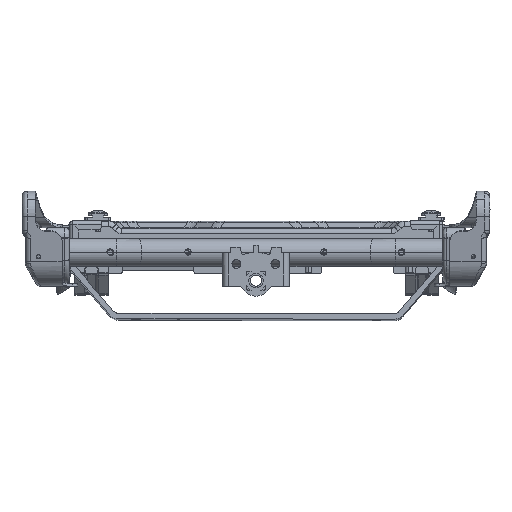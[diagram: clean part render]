
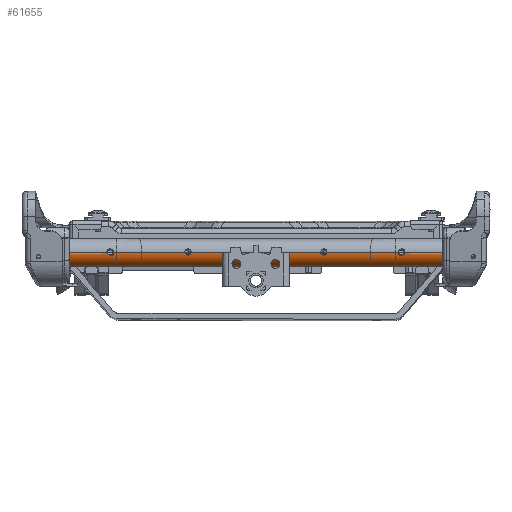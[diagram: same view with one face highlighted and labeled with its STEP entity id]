
A CAD part, left-side view. The second image highlights one B-rep face of the part: STEP entity #61655.
In plain terms, the highlighted cylindrical face has radius 12.5 mm (diameter 25 mm), a partial arc.
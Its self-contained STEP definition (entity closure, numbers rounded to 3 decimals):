
#61487=AXIS2_PLACEMENT_3D('Circle Axis2P3D',#61485,#61486,$) ;
#61516=AXIS2_PLACEMENT_3D('Cylinder Axis2P3D',#61513,#61514,#61515) ;
#61600=AXIS2_PLACEMENT_3D('Circle Axis2P3D',#61598,#61599,$) ;
#61480=CARTESIAN_POINT('Vertex',(39.904,-897.816,278.444)) ;
#61482=CARTESIAN_POINT('Vertex',(14.909,-897.788,278.934)) ;
#61485=CARTESIAN_POINT('Axis2P3D Location',(27.407,-897.802,278.689)) ;
#61513=CARTESIAN_POINT('Axis2P3D Location',(27.601,-724.302,278.676)) ;
#61519=CARTESIAN_POINT('Control Point',(40.027,-788.024,278.436)) ;
#61520=CARTESIAN_POINT('Control Point',(40.034,-787.967,278.755)) ;
#61521=CARTESIAN_POINT('Control Point',(40.03,-787.864,279.067)) ;
#61522=CARTESIAN_POINT('Control Point',(40.016,-787.714,279.362)) ;
#61523=CARTESIAN_POINT('Control Point',(39.97,-787.274,279.985)) ;
#61524=CARTESIAN_POINT('Control Point',(39.911,-786.643,280.433)) ;
#61525=CARTESIAN_POINT('Control Point',(39.881,-786.237,280.615)) ;
#61526=CARTESIAN_POINT('Control Point',(39.857,-785.541,280.768)) ;
#61527=CARTESIAN_POINT('Control Point',(39.87,-784.84,280.697)) ;
#61528=CARTESIAN_POINT('Control Point',(39.88,-784.581,280.638)) ;
#61529=CARTESIAN_POINT('Control Point',(39.922,-783.837,280.371)) ;
#61530=CARTESIAN_POINT('Control Point',(39.987,-783.224,279.857)) ;
#61531=CARTESIAN_POINT('Control Point',(40.027,-782.905,279.427)) ;
#61532=CARTESIAN_POINT('Control Point',(40.043,-782.698,278.941)) ;
#61533=CARTESIAN_POINT('Control Point',(40.033,-782.608,278.435)) ;
#61534=CARTESIAN_POINT('Vertex',(40.027,-788.024,278.436)) ;
#61536=CARTESIAN_POINT('Vertex',(40.033,-782.608,278.435)) ;
#61539=CARTESIAN_POINT('Line Origine',(40.099,-724.316,278.431)) ;
#61543=CARTESIAN_POINT('Vertex',(40.164,-666.024,278.426)) ;
#61547=CARTESIAN_POINT('Control Point',(40.164,-666.024,278.426)) ;
#61548=CARTESIAN_POINT('Control Point',(40.17,-665.967,278.746)) ;
#61549=CARTESIAN_POINT('Control Point',(40.166,-665.864,279.058)) ;
#61550=CARTESIAN_POINT('Control Point',(40.153,-665.714,279.352)) ;
#61551=CARTESIAN_POINT('Control Point',(40.107,-665.274,279.975)) ;
#61552=CARTESIAN_POINT('Control Point',(40.048,-664.643,280.423)) ;
#61553=CARTESIAN_POINT('Control Point',(40.018,-664.237,280.605)) ;
#61554=CARTESIAN_POINT('Control Point',(39.994,-663.541,280.758)) ;
#61555=CARTESIAN_POINT('Control Point',(40.006,-662.84,280.687)) ;
#61556=CARTESIAN_POINT('Control Point',(40.016,-662.581,280.628)) ;
#61557=CARTESIAN_POINT('Control Point',(40.059,-661.837,280.361)) ;
#61558=CARTESIAN_POINT('Control Point',(40.124,-661.224,279.847)) ;
#61559=CARTESIAN_POINT('Control Point',(40.163,-660.905,279.418)) ;
#61560=CARTESIAN_POINT('Control Point',(40.18,-660.698,278.931)) ;
#61561=CARTESIAN_POINT('Control Point',(40.17,-660.608,278.426)) ;
#61562=CARTESIAN_POINT('Vertex',(40.17,-660.608,278.426)) ;
#61565=CARTESIAN_POINT('Line Origine',(40.099,-724.316,278.431)) ;
#61569=CARTESIAN_POINT('Vertex',(40.242,-596.024,278.421)) ;
#61573=CARTESIAN_POINT('Control Point',(40.242,-596.024,278.421)) ;
#61574=CARTESIAN_POINT('Control Point',(40.249,-595.967,278.74)) ;
#61575=CARTESIAN_POINT('Control Point',(40.245,-595.864,279.052)) ;
#61576=CARTESIAN_POINT('Control Point',(40.231,-595.714,279.347)) ;
#61577=CARTESIAN_POINT('Control Point',(40.185,-595.274,279.97)) ;
#61578=CARTESIAN_POINT('Control Point',(40.126,-594.643,280.418)) ;
#61579=CARTESIAN_POINT('Control Point',(40.097,-594.237,280.6)) ;
#61580=CARTESIAN_POINT('Control Point',(40.072,-593.541,280.753)) ;
#61581=CARTESIAN_POINT('Control Point',(40.085,-592.84,280.682)) ;
#61582=CARTESIAN_POINT('Control Point',(40.095,-592.581,280.623)) ;
#61583=CARTESIAN_POINT('Control Point',(40.137,-591.837,280.356)) ;
#61584=CARTESIAN_POINT('Control Point',(40.202,-591.224,279.842)) ;
#61585=CARTESIAN_POINT('Control Point',(40.242,-590.906,279.412)) ;
#61586=CARTESIAN_POINT('Control Point',(40.258,-590.698,278.926)) ;
#61587=CARTESIAN_POINT('Control Point',(40.248,-590.608,278.42)) ;
#61588=CARTESIAN_POINT('Vertex',(40.248,-590.608,278.42)) ;
#61591=CARTESIAN_POINT('Line Origine',(40.099,-724.316,278.431)) ;
#61595=CARTESIAN_POINT('Vertex',(40.293,-550.816,278.417)) ;
#61598=CARTESIAN_POINT('Axis2P3D Location',(27.795,-550.802,278.662)) ;
#61602=CARTESIAN_POINT('Vertex',(15.298,-550.788,278.907)) ;
#61605=CARTESIAN_POINT('Line Origine',(15.103,-724.288,278.921)) ;
#61610=CARTESIAN_POINT('Line Origine',(40.099,-724.316,278.431)) ;
#61614=CARTESIAN_POINT('Vertex',(39.949,-858.024,278.441)) ;
#61618=CARTESIAN_POINT('Control Point',(39.949,-858.024,278.441)) ;
#61619=CARTESIAN_POINT('Control Point',(39.955,-857.967,278.761)) ;
#61620=CARTESIAN_POINT('Control Point',(39.951,-857.864,279.073)) ;
#61621=CARTESIAN_POINT('Control Point',(39.938,-857.714,279.368)) ;
#61622=CARTESIAN_POINT('Control Point',(39.892,-857.273,279.99)) ;
#61623=CARTESIAN_POINT('Control Point',(39.833,-856.643,280.438)) ;
#61624=CARTESIAN_POINT('Control Point',(39.803,-856.237,280.62)) ;
#61625=CARTESIAN_POINT('Control Point',(39.779,-855.541,280.773)) ;
#61626=CARTESIAN_POINT('Control Point',(39.791,-854.84,280.702)) ;
#61627=CARTESIAN_POINT('Control Point',(39.801,-854.581,280.643)) ;
#61628=CARTESIAN_POINT('Control Point',(39.844,-853.837,280.376)) ;
#61629=CARTESIAN_POINT('Control Point',(39.909,-853.224,279.863)) ;
#61630=CARTESIAN_POINT('Control Point',(39.948,-852.905,279.433)) ;
#61631=CARTESIAN_POINT('Control Point',(39.965,-852.698,278.947)) ;
#61632=CARTESIAN_POINT('Control Point',(39.955,-852.608,278.441)) ;
#61633=CARTESIAN_POINT('Vertex',(39.955,-852.608,278.441)) ;
#61636=CARTESIAN_POINT('Line Origine',(40.099,-724.316,278.431)) ;
#61486=DIRECTION('Axis2P3D Direction',(0.001,1.,0.)) ;
#61514=DIRECTION('Axis2P3D Direction',(0.001,1.,0.)) ;
#61515=DIRECTION('Axis2P3D XDirection',(-0.02,0.,-1.)) ;
#61540=DIRECTION('Vector Direction',(0.001,1.,0.)) ;
#61566=DIRECTION('Vector Direction',(0.001,1.,0.)) ;
#61592=DIRECTION('Vector Direction',(0.001,1.,0.)) ;
#61599=DIRECTION('Axis2P3D Direction',(0.001,1.,0.)) ;
#61606=DIRECTION('Vector Direction',(0.001,1.,0.)) ;
#61611=DIRECTION('Vector Direction',(0.001,1.,0.)) ;
#61637=DIRECTION('Vector Direction',(0.001,1.,0.)) ;
#61541=VECTOR('Line Direction',#61540,1.) ;
#61567=VECTOR('Line Direction',#61566,1.) ;
#61593=VECTOR('Line Direction',#61592,1.) ;
#61607=VECTOR('Line Direction',#61606,1.) ;
#61612=VECTOR('Line Direction',#61611,1.) ;
#61638=VECTOR('Line Direction',#61637,1.) ;
#61642=ORIENTED_EDGE('',*,*,#61538,.T.) ;
#61643=ORIENTED_EDGE('',*,*,#61545,.T.) ;
#61644=ORIENTED_EDGE('',*,*,#61564,.T.) ;
#61645=ORIENTED_EDGE('',*,*,#61571,.T.) ;
#61646=ORIENTED_EDGE('',*,*,#61590,.T.) ;
#61647=ORIENTED_EDGE('',*,*,#61597,.T.) ;
#61648=ORIENTED_EDGE('',*,*,#61604,.F.) ;
#61649=ORIENTED_EDGE('',*,*,#61609,.F.) ;
#61650=ORIENTED_EDGE('',*,*,#61489,.T.) ;
#61651=ORIENTED_EDGE('',*,*,#61616,.T.) ;
#61652=ORIENTED_EDGE('',*,*,#61635,.T.) ;
#61653=ORIENTED_EDGE('',*,*,#61640,.T.) ;
#61655=ADVANCED_FACE('\X2\540E6A2A7BA1\X0\',(#61654),#61517,.T.) ;
#61518=B_SPLINE_CURVE_WITH_KNOTS('',5,(#61519,#61520,#61521,#61522,#61523,#61524,#61525,#61526,#61527,#61528,#61529,#61530,#61531,#61532,#61533),.UNSPECIFIED.,.F.,.U.,(6,3,3,3,6),(0.004,2.345,5.424,7.288,10.992),.UNSPECIFIED.) ;
#61546=B_SPLINE_CURVE_WITH_KNOTS('',5,(#61547,#61548,#61549,#61550,#61551,#61552,#61553,#61554,#61555,#61556,#61557,#61558,#61559,#61560,#61561),.UNSPECIFIED.,.F.,.U.,(6,3,3,3,6),(0.004,2.345,5.424,7.288,10.992),.UNSPECIFIED.) ;
#61572=B_SPLINE_CURVE_WITH_KNOTS('',5,(#61573,#61574,#61575,#61576,#61577,#61578,#61579,#61580,#61581,#61582,#61583,#61584,#61585,#61586,#61587),.UNSPECIFIED.,.F.,.U.,(6,3,3,3,6),(0.004,2.345,5.424,7.288,10.992),.UNSPECIFIED.) ;
#61617=B_SPLINE_CURVE_WITH_KNOTS('',5,(#61618,#61619,#61620,#61621,#61622,#61623,#61624,#61625,#61626,#61627,#61628,#61629,#61630,#61631,#61632),.UNSPECIFIED.,.F.,.U.,(6,3,3,3,6),(0.004,2.345,5.424,7.288,10.992),.UNSPECIFIED.) ;
#61488=CIRCLE('generated circle',#61487,12.5) ;
#61601=CIRCLE('generated circle',#61600,12.5) ;
#61517=CYLINDRICAL_SURFACE('generated cylinder',#61516,12.5) ;
#61489=EDGE_CURVE('',#61483,#61481,#61488,.T.) ;
#61538=EDGE_CURVE('',#61535,#61537,#61518,.T.) ;
#61545=EDGE_CURVE('',#61537,#61544,#61542,.T.) ;
#61564=EDGE_CURVE('',#61544,#61563,#61546,.T.) ;
#61571=EDGE_CURVE('',#61563,#61570,#61568,.T.) ;
#61590=EDGE_CURVE('',#61570,#61589,#61572,.T.) ;
#61597=EDGE_CURVE('',#61589,#61596,#61594,.T.) ;
#61604=EDGE_CURVE('',#61603,#61596,#61601,.T.) ;
#61609=EDGE_CURVE('',#61483,#61603,#61608,.T.) ;
#61616=EDGE_CURVE('',#61481,#61615,#61613,.T.) ;
#61635=EDGE_CURVE('',#61615,#61634,#61617,.T.) ;
#61640=EDGE_CURVE('',#61634,#61535,#61639,.T.) ;
#61641=EDGE_LOOP('',(#61642,#61643,#61644,#61645,#61646,#61647,#61648,#61649,#61650,#61651,#61652,#61653)) ;
#61654=FACE_OUTER_BOUND('',#61641,.T.) ;
#61542=LINE('Line',#61539,#61541) ;
#61568=LINE('Line',#61565,#61567) ;
#61594=LINE('Line',#61591,#61593) ;
#61608=LINE('Line',#61605,#61607) ;
#61613=LINE('Line',#61610,#61612) ;
#61639=LINE('Line',#61636,#61638) ;
#61481=VERTEX_POINT('',#61480) ;
#61483=VERTEX_POINT('',#61482) ;
#61535=VERTEX_POINT('',#61534) ;
#61537=VERTEX_POINT('',#61536) ;
#61544=VERTEX_POINT('',#61543) ;
#61563=VERTEX_POINT('',#61562) ;
#61570=VERTEX_POINT('',#61569) ;
#61589=VERTEX_POINT('',#61588) ;
#61596=VERTEX_POINT('',#61595) ;
#61603=VERTEX_POINT('',#61602) ;
#61615=VERTEX_POINT('',#61614) ;
#61634=VERTEX_POINT('',#61633) ;
